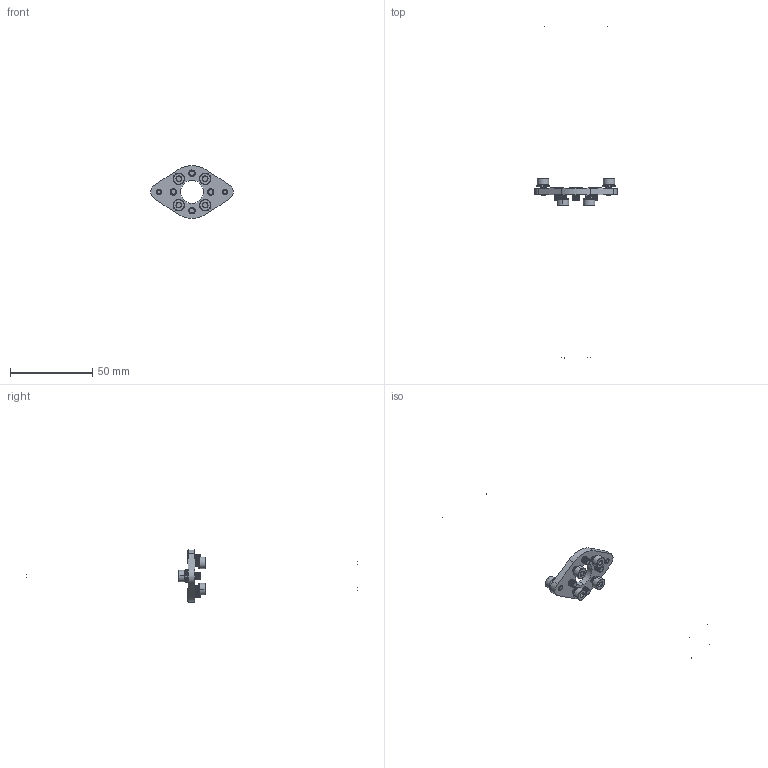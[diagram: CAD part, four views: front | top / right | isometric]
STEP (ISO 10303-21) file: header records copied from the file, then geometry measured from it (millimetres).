
FILE_DESCRIPTION (( 'STEP AP203' ), '1' );
FILE_NAME ('1619-0002-0001 assembly.STEP', '2021-11-09T22:50:57', ( '' ), ( '' ), 'SwSTEP 2.0', 'SolidWorks 2016', '' );
FILE_SCHEMA (( 'CONFIG_CONTROL_DESIGN' ));
Length unit declared in the file: millimetre
Products named in the file (5): 1619-0002-0001 assembly; 2801-0004-0008_91166A230; 1619-0002-0001; 2815-0004-0006; 2818-0004-0008
Assembly tree (13 placements, depth 2):
  1619-0002-0001 assembly
    1619-0002-0001
    2801-0004-0008_91166A230  x2
    2815-0004-0006  x6
    2818-0004-0008  x4
Bounding box: 50 x 201.62 x 31.94 mm (x, y, z)
Volume: 3580.4 mm3; surface area: 5455.8 mm2
Topology: 7 solids, 37 shells, 549 faces, 1331 edges, 848 vertices
Faces by surface type: cylinder 249, cone 126, plane 118, bspline 56
Entity records: 8581 total; most frequent: CARTESIAN_POINT 4411, ORIENTED_EDGE 736, DIRECTION 679, EDGE_CURVE 374, AXIS2_PLACEMENT_3D 268, VERTEX_POINT 240, EDGE_LOOP 176, ADVANCED_FACE 149
